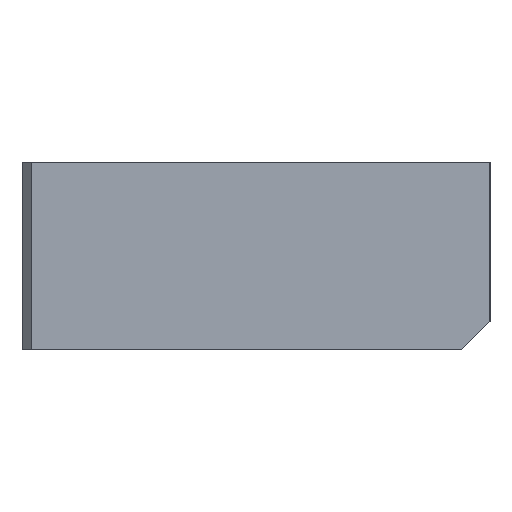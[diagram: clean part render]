
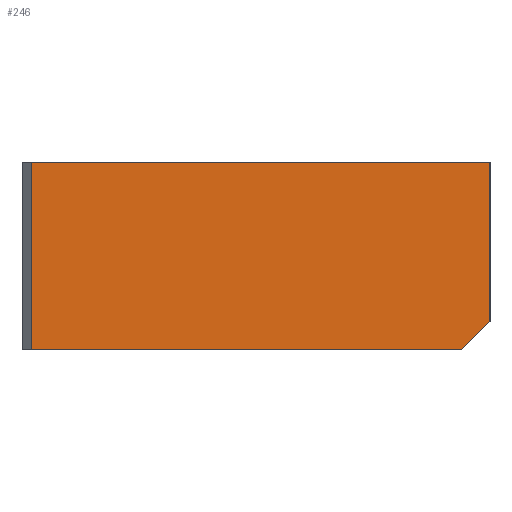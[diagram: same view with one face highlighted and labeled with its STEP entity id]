
A CAD part, left-side view. The second image highlights one B-rep face of the part: STEP entity #246.
In plain terms, the highlighted planar face has unit normal (-1, 0, 0).
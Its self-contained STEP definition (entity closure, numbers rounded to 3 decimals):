
#2 = DIRECTION ( 'NONE',  ( 0., 0., -1. ) ) ;
#5 = CARTESIAN_POINT ( 'NONE',  ( 0., 0., 20. ) ) ;
#20 = LINE ( 'NONE', #75, #430 ) ;
#31 = DIRECTION ( 'NONE',  ( 1., 0., 0. ) ) ;
#32 = PLANE ( 'NONE',  #251 ) ;
#44 = CARTESIAN_POINT ( 'NONE',  ( 0., 49., 20. ) ) ;
#59 = LINE ( 'NONE', #297, #287 ) ;
#61 = ORIENTED_EDGE ( 'NONE', *, *, #291, .T. ) ;
#62 = VECTOR ( 'NONE', #146, 1000. ) ;
#70 = ORIENTED_EDGE ( 'NONE', *, *, #235, .F. ) ;
#71 = CARTESIAN_POINT ( 'NONE',  ( 0., 0., 20. ) ) ;
#75 = CARTESIAN_POINT ( 'NONE',  ( 0., 0., 3. ) ) ;
#76 = VERTEX_POINT ( 'NONE', #451 ) ;
#86 = LINE ( 'NONE', #345, #62 ) ;
#108 = CARTESIAN_POINT ( 'NONE',  ( 0., 0., 0. ) ) ;
#109 = EDGE_CURVE ( 'NONE', #313, #157, #59, .T. ) ;
#113 = VERTEX_POINT ( 'NONE', #412 ) ;
#126 = ORIENTED_EDGE ( 'NONE', *, *, #109, .T. ) ;
#135 = EDGE_LOOP ( 'NONE', ( #70, #126, #248, #61, #288 ) ) ;
#146 = DIRECTION ( 'NONE',  ( 0., -1., 0. ) ) ;
#157 = VERTEX_POINT ( 'NONE', #204 ) ;
#182 = LINE ( 'NONE', #71, #259 ) ;
#185 = CARTESIAN_POINT ( 'NONE',  ( 0., 0., 20. ) ) ;
#193 = VECTOR ( 'NONE', #353, 1000. ) ;
#199 = DIRECTION ( 'NONE',  ( 0., 0., -1. ) ) ;
#203 = FACE_OUTER_BOUND ( 'NONE', #135, .T. ) ;
#204 = CARTESIAN_POINT ( 'NONE',  ( 0., 49., 0. ) ) ;
#212 = DIRECTION ( 'NONE',  ( 0., -0.707, 0.707 ) ) ;
#235 = EDGE_CURVE ( 'NONE', #313, #407, #86, .T. ) ;
#246 = ADVANCED_FACE ( 'NONE', ( #203 ), #32, .F. ) ;
#248 = ORIENTED_EDGE ( 'NONE', *, *, #375, .T. ) ;
#251 = AXIS2_PLACEMENT_3D ( 'NONE', #5, #31, #2 ) ;
#259 = VECTOR ( 'NONE', #431, 1000. ) ;
#287 = VECTOR ( 'NONE', #199, 1000. ) ;
#288 = ORIENTED_EDGE ( 'NONE', *, *, #385, .F. ) ;
#291 = EDGE_CURVE ( 'NONE', #76, #113, #20, .T. ) ;
#297 = CARTESIAN_POINT ( 'NONE',  ( 0., 49., 20. ) ) ;
#306 = LINE ( 'NONE', #108, #193 ) ;
#313 = VERTEX_POINT ( 'NONE', #44 ) ;
#345 = CARTESIAN_POINT ( 'NONE',  ( 0., 0., 20. ) ) ;
#353 = DIRECTION ( 'NONE',  ( 0., -1., 0. ) ) ;
#375 = EDGE_CURVE ( 'NONE', #157, #76, #306, .T. ) ;
#385 = EDGE_CURVE ( 'NONE', #407, #113, #182, .T. ) ;
#407 = VERTEX_POINT ( 'NONE', #185 ) ;
#412 = CARTESIAN_POINT ( 'NONE',  ( 0., 0., 3. ) ) ;
#430 = VECTOR ( 'NONE', #212, 1000. ) ;
#431 = DIRECTION ( 'NONE',  ( 0., 0., -1. ) ) ;
#451 = CARTESIAN_POINT ( 'NONE',  ( 0., 3., 0. ) ) ;
